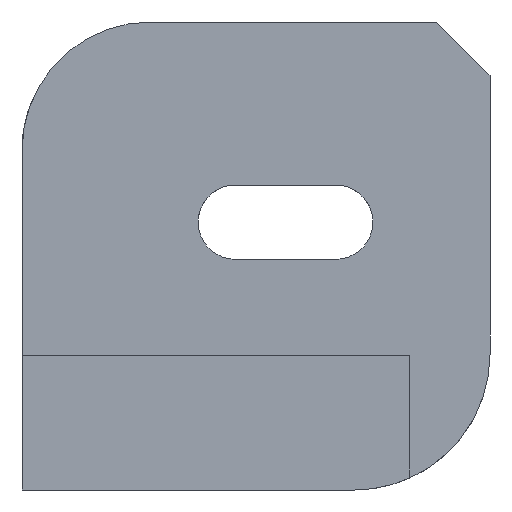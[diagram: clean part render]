
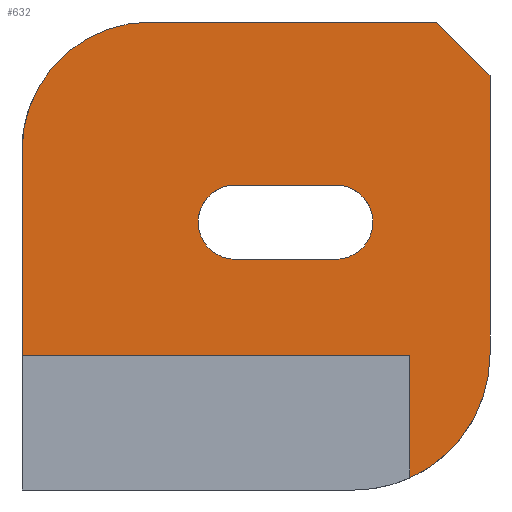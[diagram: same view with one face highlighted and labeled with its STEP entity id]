
A CAD part, left-side view. The second image highlights one B-rep face of the part: STEP entity #632.
In plain terms, the highlighted planar face has unit normal (-1, 0, 0).
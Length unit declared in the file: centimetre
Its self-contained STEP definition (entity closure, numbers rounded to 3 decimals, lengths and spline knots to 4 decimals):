
#12 = EDGE_LOOP ( 'NONE', ( #91, #1060, #426, #1204 ) ) ;
#14 = FACE_OUTER_BOUND ( 'NONE', #1128, .T. ) ;
#26 = VERTEX_POINT ( 'NONE', #445 ) ;
#45 = ORIENTED_EDGE ( 'NONE', *, *, #1127, .F. ) ;
#56 = AXIS2_PLACEMENT_3D ( 'NONE', #1110, #802, #882 ) ;
#75 = ORIENTED_EDGE ( 'NONE', *, *, #199, .T. ) ;
#82 = VERTEX_POINT ( 'NONE', #478 ) ;
#88 = ORIENTED_EDGE ( 'NONE', *, *, #751, .F. ) ;
#91 = ORIENTED_EDGE ( 'NONE', *, *, #104, .F. ) ;
#104 = EDGE_CURVE ( 'NONE', #303, #1276, #1094, .T. ) ;
#108 = DIRECTION ( 'NONE',  ( 0., 0., -1. ) ) ;
#114 = CIRCLE ( 'NONE', #250, 274.2421 ) ;
#121 = EDGE_CURVE ( 'NONE', #828, #82, #741, .T. ) ;
#123 = VECTOR ( 'NONE', #1300, 100. ) ;
#134 = CARTESIAN_POINT ( 'NONE',  ( 0., 329.5503, 492.97 ) ) ;
#139 = LINE ( 'NONE', #533, #1146 ) ;
#157 = AXIS2_PLACEMENT_3D ( 'NONE', #1143, #310, #1238 ) ;
#160 = VERTEX_POINT ( 'NONE', #1290 ) ;
#181 = VERTEX_POINT ( 'NONE', #703 ) ;
#183 = CARTESIAN_POINT ( 'NONE',  ( 0., 544.3031, 651.6264 ) ) ;
#198 = CARTESIAN_POINT ( 'NONE',  ( 0., 725.7579, 725.7579 ) ) ;
#199 = EDGE_CURVE ( 'NONE', #181, #383, #822, .T. ) ;
#206 = CARTESIAN_POINT ( 'NONE',  ( 0., 329.5503, 492.97 ) ) ;
#229 = VECTOR ( 'NONE', #1131, 100. ) ;
#250 = AXIS2_PLACEMENT_3D ( 'NONE', #198, #1044, #915 ) ;
#261 = CARTESIAN_POINT ( 'NONE',  ( 0., 544.3031, 651.6264 ) ) ;
#303 = VERTEX_POINT ( 'NONE', #1139 ) ;
#310 = DIRECTION ( 'NONE',  ( -1., 0., 0. ) ) ;
#331 = FACE_BOUND ( 'NONE', #12, .T. ) ;
#363 = DIRECTION ( 'NONE',  ( 0., 0., -1. ) ) ;
#383 = VERTEX_POINT ( 'NONE', #461 ) ;
#409 = CIRCLE ( 'NONE', #1166, 79.3282 ) ;
#426 = ORIENTED_EDGE ( 'NONE', *, *, #1116, .F. ) ;
#438 = LINE ( 'NONE', #851, #1078 ) ;
#442 = DIRECTION ( 'NONE',  ( 0., 1., 0. ) ) ;
#445 = CARTESIAN_POINT ( 'NONE',  ( 0., 1000., 287.1557 ) ) ;
#450 = VERTEX_POINT ( 'NONE', #1239 ) ;
#456 = EDGE_CURVE ( 'NONE', #450, #26, #1136, .T. ) ;
#461 = CARTESIAN_POINT ( 'NONE',  ( 0., 113.683, 1000. ) ) ;
#464 = ORIENTED_EDGE ( 'NONE', *, *, #990, .T. ) ;
#478 = CARTESIAN_POINT ( 'NONE',  ( 0., 0., 290.4762 ) ) ;
#509 = DIRECTION ( 'NONE',  ( -1., 0., 0. ) ) ;
#522 = CIRCLE ( 'NONE', #157, 79.3282 ) ;
#533 = CARTESIAN_POINT ( 'NONE',  ( 0., 171.2828, 0. ) ) ;
#536 = CARTESIAN_POINT ( 'NONE',  ( 0., 1000., 1000. ) ) ;
#587 = CARTESIAN_POINT ( 'NONE',  ( 0., 171.2828, 25.5812 ) ) ;
#621 = DIRECTION ( 'NONE',  ( 0., 0., -1. ) ) ;
#632 = ADVANCED_FACE ( 'NONE', ( #331, #14 ), #739, .F. ) ;
#662 = EDGE_CURVE ( 'NONE', #1312, #303, #522, .T. ) ;
#697 = ORIENTED_EDGE ( 'NONE', *, *, #1266, .F. ) ;
#698 = VERTEX_POINT ( 'NONE', #829 ) ;
#703 = CARTESIAN_POINT ( 'NONE',  ( 0., 0., 886.317 ) ) ;
#730 = DIRECTION ( 'NONE',  ( 1., 0., 0. ) ) ;
#731 = DIRECTION ( 'NONE',  ( 0., 0., -1. ) ) ;
#734 = AXIS2_PLACEMENT_3D ( 'NONE', #1151, #730, #108 ) ;
#739 = PLANE ( 'NONE',  #734 ) ;
#741 = CIRCLE ( 'NONE', #56, 290.4762 ) ;
#750 = DIRECTION ( 'NONE',  ( 0., 0., 1. ) ) ;
#751 = EDGE_CURVE ( 'NONE', #181, #82, #1287, .T. ) ;
#802 = DIRECTION ( 'NONE',  ( -1., 0., 0. ) ) ;
#806 = VERTEX_POINT ( 'NONE', #1013 ) ;
#822 = LINE ( 'NONE', #1232, #229 ) ;
#828 = VERTEX_POINT ( 'NONE', #587 ) ;
#829 = CARTESIAN_POINT ( 'NONE',  ( 0., 544.3031, 492.97 ) ) ;
#851 = CARTESIAN_POINT ( 'NONE',  ( 0., 171.2828, 287.1557 ) ) ;
#856 = DIRECTION ( 'NONE',  ( 0., -1., 0. ) ) ;
#882 = DIRECTION ( 'NONE',  ( 0., 0., -1. ) ) ;
#886 = ORIENTED_EDGE ( 'NONE', *, *, #1135, .F. ) ;
#915 = DIRECTION ( 'NONE',  ( 0., 0., -1. ) ) ;
#939 = CARTESIAN_POINT ( 'NONE',  ( 0., 544.3031, 572.2982 ) ) ;
#969 = VECTOR ( 'NONE', #856, 100. ) ;
#990 = EDGE_CURVE ( 'NONE', #806, #450, #114, .T. ) ;
#1013 = CARTESIAN_POINT ( 'NONE',  ( 0., 725.7579, 1000. ) ) ;
#1015 = EDGE_CURVE ( 'NONE', #1276, #698, #409, .T. ) ;
#1025 = DIRECTION ( 'NONE',  ( 0., -1., 0. ) ) ;
#1044 = DIRECTION ( 'NONE',  ( -1., 0., 0. ) ) ;
#1055 = LINE ( 'NONE', #1161, #969 ) ;
#1060 = ORIENTED_EDGE ( 'NONE', *, *, #662, .F. ) ;
#1078 = VECTOR ( 'NONE', #442, 100. ) ;
#1094 = LINE ( 'NONE', #183, #123 ) ;
#1101 = VECTOR ( 'NONE', #1025, 100. ) ;
#1110 = CARTESIAN_POINT ( 'NONE',  ( 0., 290.4762, 290.4762 ) ) ;
#1116 = EDGE_CURVE ( 'NONE', #698, #1312, #1124, .T. ) ;
#1124 = LINE ( 'NONE', #206, #1101 ) ;
#1127 = EDGE_CURVE ( 'NONE', #806, #383, #1055, .T. ) ;
#1128 = EDGE_LOOP ( 'NONE', ( #1311, #697, #886, #1156, #88, #75, #45, #464 ) ) ;
#1131 = DIRECTION ( 'NONE',  ( 0., 0.707, 0.707 ) ) ;
#1135 = EDGE_CURVE ( 'NONE', #828, #160, #139, .T. ) ;
#1136 = LINE ( 'NONE', #536, #1194 ) ;
#1139 = CARTESIAN_POINT ( 'NONE',  ( 0., 329.5503, 651.6264 ) ) ;
#1143 = CARTESIAN_POINT ( 'NONE',  ( 0., 329.5503, 572.2982 ) ) ;
#1146 = VECTOR ( 'NONE', #750, 100. ) ;
#1151 = CARTESIAN_POINT ( 'NONE',  ( 0., 1000., 1000. ) ) ;
#1156 = ORIENTED_EDGE ( 'NONE', *, *, #121, .T. ) ;
#1161 = CARTESIAN_POINT ( 'NONE',  ( 0., 1000., 1000. ) ) ;
#1166 = AXIS2_PLACEMENT_3D ( 'NONE', #939, #509, #621 ) ;
#1194 = VECTOR ( 'NONE', #731, 100. ) ;
#1204 = ORIENTED_EDGE ( 'NONE', *, *, #1015, .F. ) ;
#1231 = VECTOR ( 'NONE', #363, 100. ) ;
#1232 = CARTESIAN_POINT ( 'NONE',  ( 0., 113.683, 1000. ) ) ;
#1238 = DIRECTION ( 'NONE',  ( 0., 0., -1. ) ) ;
#1239 = CARTESIAN_POINT ( 'NONE',  ( 0., 1000., 725.7579 ) ) ;
#1266 = EDGE_CURVE ( 'NONE', #160, #26, #438, .T. ) ;
#1276 = VERTEX_POINT ( 'NONE', #261 ) ;
#1287 = LINE ( 'NONE', #1318, #1231 ) ;
#1290 = CARTESIAN_POINT ( 'NONE',  ( 0., 171.2828, 287.1557 ) ) ;
#1300 = DIRECTION ( 'NONE',  ( 0., 1., 0. ) ) ;
#1311 = ORIENTED_EDGE ( 'NONE', *, *, #456, .T. ) ;
#1312 = VERTEX_POINT ( 'NONE', #134 ) ;
#1318 = CARTESIAN_POINT ( 'NONE',  ( 0., 0., 1000. ) ) ;
